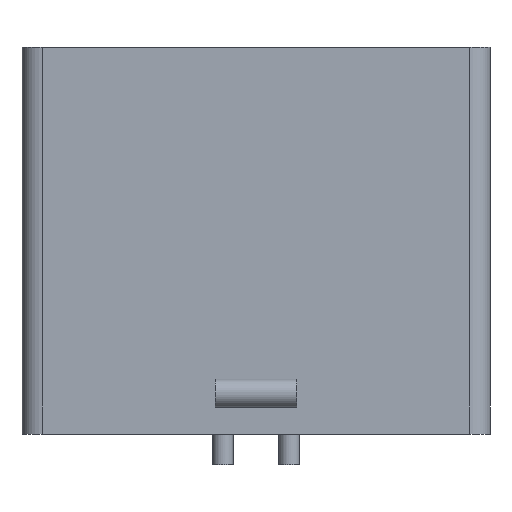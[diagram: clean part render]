
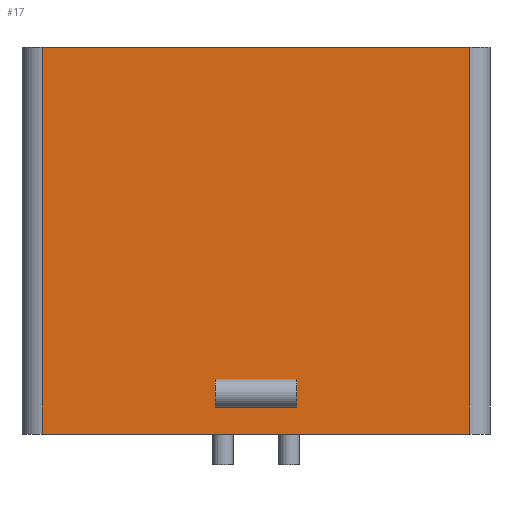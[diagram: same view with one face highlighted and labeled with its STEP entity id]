
A CAD part, front view. The second image highlights one B-rep face of the part: STEP entity #17.
In plain terms, the highlighted planar face has unit normal (0, -1, 0).
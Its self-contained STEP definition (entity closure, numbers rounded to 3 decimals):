
#17 = ADVANCED_FACE('',(#18,#137),#32,.F.);
#18 = FACE_BOUND('',#19,.F.);
#19 = EDGE_LOOP('',(#20,#55,#83,#111));
#20 = ORIENTED_EDGE('',*,*,#21,.F.);
#21 = EDGE_CURVE('',#22,#24,#26,.T.);
#22 = VERTEX_POINT('',#23);
#23 = CARTESIAN_POINT('',(-21.,-5.5,0.));
#24 = VERTEX_POINT('',#25);
#25 = CARTESIAN_POINT('',(21.,-5.5,0.));
#26 = SURFACE_CURVE('',#27,(#31,#43),.PCURVE_S1.);
#27 = LINE('',#28,#29);
#28 = CARTESIAN_POINT('',(-23.,-5.5,0.));
#29 = VECTOR('',#30,1.);
#30 = DIRECTION('',(1.,0.,0.));
#31 = PCURVE('',#32,#37);
#32 = PLANE('',#33);
#33 = AXIS2_PLACEMENT_3D('',#34,#35,#36);
#34 = CARTESIAN_POINT('',(-23.,-5.5,0.));
#35 = DIRECTION('',(0.,1.,0.));
#36 = DIRECTION('',(1.,0.,0.));
#37 = DEFINITIONAL_REPRESENTATION('',(#38),#42);
#38 = LINE('',#39,#40);
#39 = CARTESIAN_POINT('',(0.,0.));
#40 = VECTOR('',#41,1.);
#41 = DIRECTION('',(1.,0.));
#42 = ( GEOMETRIC_REPRESENTATION_CONTEXT(2) 
PARAMETRIC_REPRESENTATION_CONTEXT() REPRESENTATION_CONTEXT('2D SPACE',''
  ) );
#43 = PCURVE('',#44,#49);
#44 = PLANE('',#45);
#45 = AXIS2_PLACEMENT_3D('',#46,#47,#48);
#46 = CARTESIAN_POINT('',(0.,0.,0.));
#47 = DIRECTION('',(0.,0.,1.));
#48 = DIRECTION('',(1.,0.,-0.));
#49 = DEFINITIONAL_REPRESENTATION('',(#50),#54);
#50 = LINE('',#51,#52);
#51 = CARTESIAN_POINT('',(-23.,-5.5));
#52 = VECTOR('',#53,1.);
#53 = DIRECTION('',(1.,0.));
#54 = ( GEOMETRIC_REPRESENTATION_CONTEXT(2) 
PARAMETRIC_REPRESENTATION_CONTEXT() REPRESENTATION_CONTEXT('2D SPACE',''
  ) );
#55 = ORIENTED_EDGE('',*,*,#56,.T.);
#56 = EDGE_CURVE('',#22,#57,#59,.T.);
#57 = VERTEX_POINT('',#58);
#58 = CARTESIAN_POINT('',(-21.,-5.5,38.));
#59 = SURFACE_CURVE('',#60,(#64,#71),.PCURVE_S1.);
#60 = LINE('',#61,#62);
#61 = CARTESIAN_POINT('',(-21.,-5.5,0.));
#62 = VECTOR('',#63,1.);
#63 = DIRECTION('',(0.,0.,1.));
#64 = PCURVE('',#32,#65);
#65 = DEFINITIONAL_REPRESENTATION('',(#66),#70);
#66 = LINE('',#67,#68);
#67 = CARTESIAN_POINT('',(2.,0.));
#68 = VECTOR('',#69,1.);
#69 = DIRECTION('',(0.,-1.));
#70 = ( GEOMETRIC_REPRESENTATION_CONTEXT(2) 
PARAMETRIC_REPRESENTATION_CONTEXT() REPRESENTATION_CONTEXT('2D SPACE',''
  ) );
#71 = PCURVE('',#72,#77);
#72 = CYLINDRICAL_SURFACE('',#73,2.);
#73 = AXIS2_PLACEMENT_3D('',#74,#75,#76);
#74 = CARTESIAN_POINT('',(-21.,-3.5,0.));
#75 = DIRECTION('',(0.,0.,1.));
#76 = DIRECTION('',(0.,-1.,0.));
#77 = DEFINITIONAL_REPRESENTATION('',(#78),#82);
#78 = LINE('',#79,#80);
#79 = CARTESIAN_POINT('',(-0.,0.));
#80 = VECTOR('',#81,1.);
#81 = DIRECTION('',(-0.,1.));
#82 = ( GEOMETRIC_REPRESENTATION_CONTEXT(2) 
PARAMETRIC_REPRESENTATION_CONTEXT() REPRESENTATION_CONTEXT('2D SPACE',''
  ) );
#83 = ORIENTED_EDGE('',*,*,#84,.T.);
#84 = EDGE_CURVE('',#57,#85,#87,.T.);
#85 = VERTEX_POINT('',#86);
#86 = CARTESIAN_POINT('',(21.,-5.5,38.));
#87 = SURFACE_CURVE('',#88,(#92,#99),.PCURVE_S1.);
#88 = LINE('',#89,#90);
#89 = CARTESIAN_POINT('',(-23.,-5.5,38.));
#90 = VECTOR('',#91,1.);
#91 = DIRECTION('',(1.,0.,0.));
#92 = PCURVE('',#32,#93);
#93 = DEFINITIONAL_REPRESENTATION('',(#94),#98);
#94 = LINE('',#95,#96);
#95 = CARTESIAN_POINT('',(0.,-38.));
#96 = VECTOR('',#97,1.);
#97 = DIRECTION('',(1.,0.));
#98 = ( GEOMETRIC_REPRESENTATION_CONTEXT(2) 
PARAMETRIC_REPRESENTATION_CONTEXT() REPRESENTATION_CONTEXT('2D SPACE',''
  ) );
#99 = PCURVE('',#100,#105);
#100 = PLANE('',#101);
#101 = AXIS2_PLACEMENT_3D('',#102,#103,#104);
#102 = CARTESIAN_POINT('',(0.,0.,38.));
#103 = DIRECTION('',(0.,0.,1.));
#104 = DIRECTION('',(1.,0.,-0.));
#105 = DEFINITIONAL_REPRESENTATION('',(#106),#110);
#106 = LINE('',#107,#108);
#107 = CARTESIAN_POINT('',(-23.,-5.5));
#108 = VECTOR('',#109,1.);
#109 = DIRECTION('',(1.,0.));
#110 = ( GEOMETRIC_REPRESENTATION_CONTEXT(2) 
PARAMETRIC_REPRESENTATION_CONTEXT() REPRESENTATION_CONTEXT('2D SPACE',''
  ) );
#111 = ORIENTED_EDGE('',*,*,#112,.F.);
#112 = EDGE_CURVE('',#24,#85,#113,.T.);
#113 = SURFACE_CURVE('',#114,(#118,#125),.PCURVE_S1.);
#114 = LINE('',#115,#116);
#115 = CARTESIAN_POINT('',(21.,-5.5,0.));
#116 = VECTOR('',#117,1.);
#117 = DIRECTION('',(0.,0.,1.));
#118 = PCURVE('',#32,#119);
#119 = DEFINITIONAL_REPRESENTATION('',(#120),#124);
#120 = LINE('',#121,#122);
#121 = CARTESIAN_POINT('',(44.,0.));
#122 = VECTOR('',#123,1.);
#123 = DIRECTION('',(0.,-1.));
#124 = ( GEOMETRIC_REPRESENTATION_CONTEXT(2) 
PARAMETRIC_REPRESENTATION_CONTEXT() REPRESENTATION_CONTEXT('2D SPACE',''
  ) );
#125 = PCURVE('',#126,#131);
#126 = CYLINDRICAL_SURFACE('',#127,2.);
#127 = AXIS2_PLACEMENT_3D('',#128,#129,#130);
#128 = CARTESIAN_POINT('',(21.,-3.5,0.));
#129 = DIRECTION('',(0.,0.,1.));
#130 = DIRECTION('',(0.,-1.,0.));
#131 = DEFINITIONAL_REPRESENTATION('',(#132),#136);
#132 = LINE('',#133,#134);
#133 = CARTESIAN_POINT('',(0.,0.));
#134 = VECTOR('',#135,1.);
#135 = DIRECTION('',(0.,1.));
#136 = ( GEOMETRIC_REPRESENTATION_CONTEXT(2) 
PARAMETRIC_REPRESENTATION_CONTEXT() REPRESENTATION_CONTEXT('2D SPACE',''
  ) );
#137 = FACE_BOUND('',#138,.F.);
#138 = EDGE_LOOP('',(#139,#167,#193,#219));
#139 = ORIENTED_EDGE('',*,*,#140,.F.);
#140 = EDGE_CURVE('',#141,#143,#145,.T.);
#141 = VERTEX_POINT('',#142);
#142 = CARTESIAN_POINT('',(4.,-5.5,5.386));
#143 = VERTEX_POINT('',#144);
#144 = CARTESIAN_POINT('',(4.,-5.5,2.614));
#145 = SURFACE_CURVE('',#146,(#150,#156),.PCURVE_S1.);
#146 = LINE('',#147,#148);
#147 = CARTESIAN_POINT('',(4.,-5.5,2.));
#148 = VECTOR('',#149,1.);
#149 = DIRECTION('',(0.,0.,-1.));
#150 = PCURVE('',#32,#151);
#151 = DEFINITIONAL_REPRESENTATION('',(#152),#155);
#152 = B_SPLINE_CURVE_WITH_KNOTS('',1,(#153,#154),.UNSPECIFIED.,.F.,.F.,
  (2,2),(-3.4,-0.6),.PIECEWISE_BEZIER_KNOTS.);
#153 = CARTESIAN_POINT('',(27.,-5.4));
#154 = CARTESIAN_POINT('',(27.,-2.6));
#155 = ( GEOMETRIC_REPRESENTATION_CONTEXT(2) 
PARAMETRIC_REPRESENTATION_CONTEXT() REPRESENTATION_CONTEXT('2D SPACE',''
  ) );
#156 = PCURVE('',#157,#162);
#157 = PLANE('',#158);
#158 = AXIS2_PLACEMENT_3D('',#159,#160,#161);
#159 = CARTESIAN_POINT('',(4.,-5.3,4.));
#160 = DIRECTION('',(1.,0.,0.));
#161 = DIRECTION('',(-0.,0.,1.));
#162 = DEFINITIONAL_REPRESENTATION('',(#163),#166);
#163 = B_SPLINE_CURVE_WITH_KNOTS('',1,(#164,#165),.UNSPECIFIED.,.F.,.F.,
  (2,2),(-3.4,-0.6),.PIECEWISE_BEZIER_KNOTS.);
#164 = CARTESIAN_POINT('',(1.4,0.2));
#165 = CARTESIAN_POINT('',(-1.4,0.2));
#166 = ( GEOMETRIC_REPRESENTATION_CONTEXT(2) 
PARAMETRIC_REPRESENTATION_CONTEXT() REPRESENTATION_CONTEXT('2D SPACE',''
  ) );
#167 = ORIENTED_EDGE('',*,*,#168,.T.);
#168 = EDGE_CURVE('',#141,#169,#171,.T.);
#169 = VERTEX_POINT('',#170);
#170 = CARTESIAN_POINT('',(-4.,-5.5,5.386));
#171 = SURFACE_CURVE('',#172,(#176,#182),.PCURVE_S1.);
#172 = LINE('',#173,#174);
#173 = CARTESIAN_POINT('',(-4.,-5.5,5.386));
#174 = VECTOR('',#175,1.);
#175 = DIRECTION('',(-1.,-0.,-0.));
#176 = PCURVE('',#32,#177);
#177 = DEFINITIONAL_REPRESENTATION('',(#178),#181);
#178 = B_SPLINE_CURVE_WITH_KNOTS('',1,(#179,#180),.UNSPECIFIED.,.F.,.F.,
  (2,2),(-8.,0.),.PIECEWISE_BEZIER_KNOTS.);
#179 = CARTESIAN_POINT('',(27.,-5.386));
#180 = CARTESIAN_POINT('',(19.,-5.386));
#181 = ( GEOMETRIC_REPRESENTATION_CONTEXT(2) 
PARAMETRIC_REPRESENTATION_CONTEXT() REPRESENTATION_CONTEXT('2D SPACE',''
  ) );
#182 = PCURVE('',#183,#188);
#183 = CYLINDRICAL_SURFACE('',#184,1.4);
#184 = AXIS2_PLACEMENT_3D('',#185,#186,#187);
#185 = CARTESIAN_POINT('',(-4.,-5.3,4.));
#186 = DIRECTION('',(-1.,-0.,-0.));
#187 = DIRECTION('',(0.,1.,0.));
#188 = DEFINITIONAL_REPRESENTATION('',(#189),#192);
#189 = B_SPLINE_CURVE_WITH_KNOTS('',1,(#190,#191),.UNSPECIFIED.,.F.,.F.,
  (2,2),(-8.,0.),.PIECEWISE_BEZIER_KNOTS.);
#190 = CARTESIAN_POINT('',(-1.714,-8.));
#191 = CARTESIAN_POINT('',(-1.714,0.));
#192 = ( GEOMETRIC_REPRESENTATION_CONTEXT(2) 
PARAMETRIC_REPRESENTATION_CONTEXT() REPRESENTATION_CONTEXT('2D SPACE',''
  ) );
#193 = ORIENTED_EDGE('',*,*,#194,.T.);
#194 = EDGE_CURVE('',#169,#195,#197,.T.);
#195 = VERTEX_POINT('',#196);
#196 = CARTESIAN_POINT('',(-4.,-5.5,2.614));
#197 = SURFACE_CURVE('',#198,(#202,#208),.PCURVE_S1.);
#198 = LINE('',#199,#200);
#199 = CARTESIAN_POINT('',(-4.,-5.5,2.));
#200 = VECTOR('',#201,1.);
#201 = DIRECTION('',(0.,0.,-1.));
#202 = PCURVE('',#32,#203);
#203 = DEFINITIONAL_REPRESENTATION('',(#204),#207);
#204 = B_SPLINE_CURVE_WITH_KNOTS('',1,(#205,#206),.UNSPECIFIED.,.F.,.F.,
  (2,2),(-3.4,-0.6),.PIECEWISE_BEZIER_KNOTS.);
#205 = CARTESIAN_POINT('',(19.,-5.4));
#206 = CARTESIAN_POINT('',(19.,-2.6));
#207 = ( GEOMETRIC_REPRESENTATION_CONTEXT(2) 
PARAMETRIC_REPRESENTATION_CONTEXT() REPRESENTATION_CONTEXT('2D SPACE',''
  ) );
#208 = PCURVE('',#209,#214);
#209 = PLANE('',#210);
#210 = AXIS2_PLACEMENT_3D('',#211,#212,#213);
#211 = CARTESIAN_POINT('',(-4.,-5.3,4.));
#212 = DIRECTION('',(1.,0.,0.));
#213 = DIRECTION('',(-0.,0.,1.));
#214 = DEFINITIONAL_REPRESENTATION('',(#215),#218);
#215 = B_SPLINE_CURVE_WITH_KNOTS('',1,(#216,#217),.UNSPECIFIED.,.F.,.F.,
  (2,2),(-3.4,-0.6),.PIECEWISE_BEZIER_KNOTS.);
#216 = CARTESIAN_POINT('',(1.4,0.2));
#217 = CARTESIAN_POINT('',(-1.4,0.2));
#218 = ( GEOMETRIC_REPRESENTATION_CONTEXT(2) 
PARAMETRIC_REPRESENTATION_CONTEXT() REPRESENTATION_CONTEXT('2D SPACE',''
  ) );
#219 = ORIENTED_EDGE('',*,*,#220,.F.);
#220 = EDGE_CURVE('',#143,#195,#221,.T.);
#221 = SURFACE_CURVE('',#222,(#226,#232),.PCURVE_S1.);
#222 = LINE('',#223,#224);
#223 = CARTESIAN_POINT('',(-4.,-5.5,2.614));
#224 = VECTOR('',#225,1.);
#225 = DIRECTION('',(-1.,-0.,-0.));
#226 = PCURVE('',#32,#227);
#227 = DEFINITIONAL_REPRESENTATION('',(#228),#231);
#228 = B_SPLINE_CURVE_WITH_KNOTS('',1,(#229,#230),.UNSPECIFIED.,.F.,.F.,
  (2,2),(-8.,0.),.PIECEWISE_BEZIER_KNOTS.);
#229 = CARTESIAN_POINT('',(27.,-2.614));
#230 = CARTESIAN_POINT('',(19.,-2.614));
#231 = ( GEOMETRIC_REPRESENTATION_CONTEXT(2) 
PARAMETRIC_REPRESENTATION_CONTEXT() REPRESENTATION_CONTEXT('2D SPACE',''
  ) );
#232 = PCURVE('',#183,#233);
#233 = DEFINITIONAL_REPRESENTATION('',(#234),#237);
#234 = B_SPLINE_CURVE_WITH_KNOTS('',1,(#235,#236),.UNSPECIFIED.,.F.,.F.,
  (2,2),(-8.,0.),.PIECEWISE_BEZIER_KNOTS.);
#235 = CARTESIAN_POINT('',(-4.569,-8.));
#236 = CARTESIAN_POINT('',(-4.569,0.));
#237 = ( GEOMETRIC_REPRESENTATION_CONTEXT(2) 
PARAMETRIC_REPRESENTATION_CONTEXT() REPRESENTATION_CONTEXT('2D SPACE',''
  ) );
